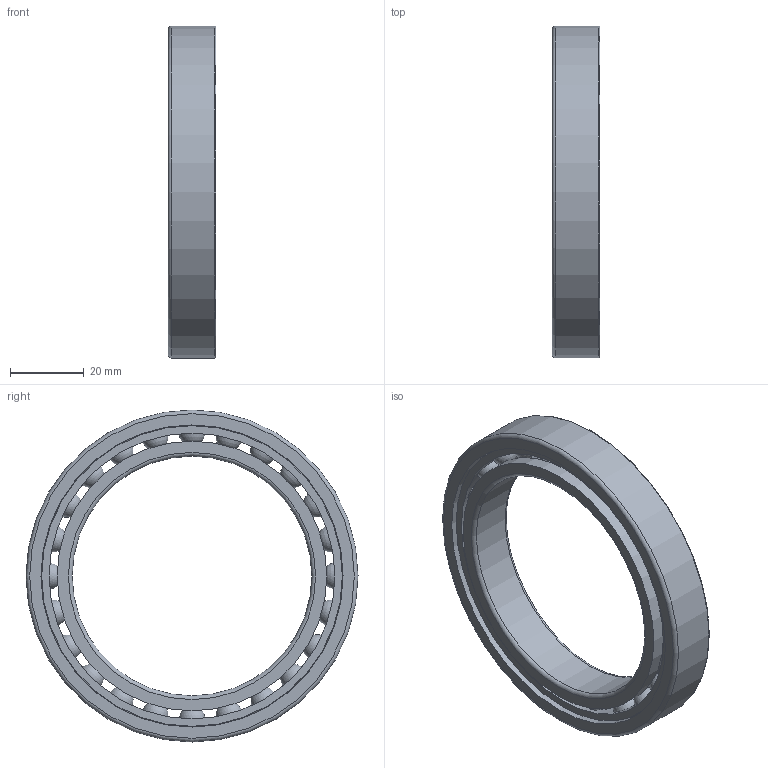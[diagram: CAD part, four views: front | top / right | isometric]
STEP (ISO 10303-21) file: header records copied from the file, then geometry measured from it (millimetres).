
FILE_DESCRIPTION(/* description */ (''),/* implementation_level */ '2;1');
FILE_NAME(/* name */ 'S_61913_TA.step',/* time_stamp */ '2013-03-06T14:48:38+01:00',/* author */ ('Marian'),/* organization */ ('GMN'),/* preprocessor_version */ 'ST-DEVELOPER v11',/* originating_system */ 'SIEMENS UGS NX 6.0',/* authorisation */ '');
FILE_SCHEMA (('CONFIG_CONTROL_DESIGN'));
Length unit declared in the file: millimetre
Products named in the file (1): S_61913_TA
Bounding box: 13 x 90 x 90 mm (x, y, z)
Volume: 28869.8 mm3; surface area: 25195.3 mm2
Topology: 27 solids, 27 shells, 68 faces, 182 edges, 118 vertices
Faces by surface type: cylinder 31, sphere 24, torus 6, plane 6, cone 1
Full cylindrical faces by diameter (mm): 7.344 x24, 65 x1, 73.1 x2, 77.484 x1, 81.5 x1, 81.9 x1, 90 x1
Entity records: 4194 total; most frequent: CARTESIAN_POINT 2965, DIRECTION 178, FACE_BOUND 160, EDGE_LOOP 136, ORIENTED_EDGE 136, VERTEX_POINT 92, AXIS2_PLACEMENT_3D 89, EDGE_CURVE 68
